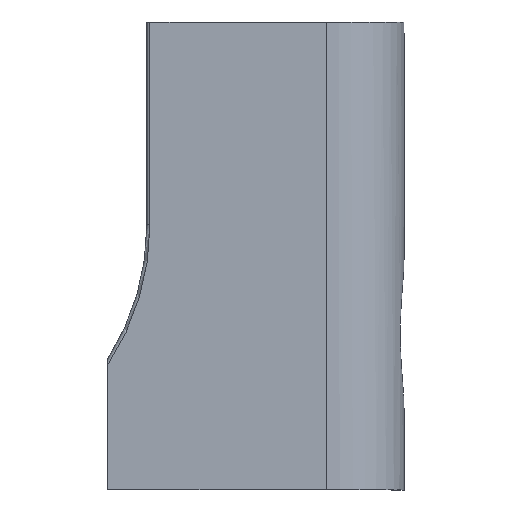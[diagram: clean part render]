
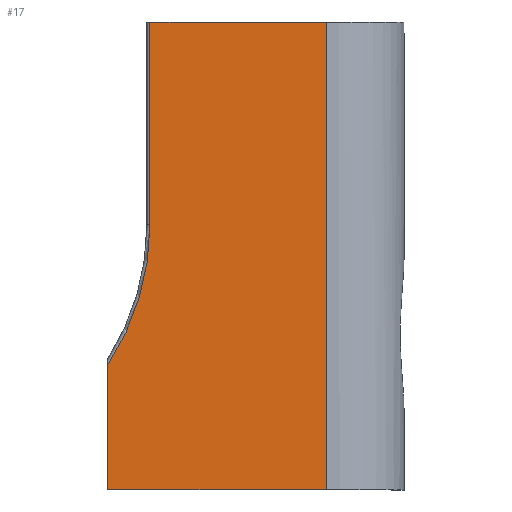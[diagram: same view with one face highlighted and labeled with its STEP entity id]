
A CAD part, top view. The second image highlights one B-rep face of the part: STEP entity #17.
In plain terms, the highlighted planar face has unit normal (0, 0, 1).
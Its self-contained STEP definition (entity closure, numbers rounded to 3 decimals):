
#17 = ADVANCED_FACE('',(#18),#32,.T.);
#18 = FACE_BOUND('',#19,.T.);
#19 = EDGE_LOOP('',(#20,#53,#81,#107,#135,#164));
#20 = ORIENTED_EDGE('',*,*,#21,.F.);
#21 = EDGE_CURVE('',#22,#24,#26,.T.);
#22 = VERTEX_POINT('',#23);
#23 = CARTESIAN_POINT('',(39.,-10.,11.75));
#24 = VERTEX_POINT('',#25);
#25 = CARTESIAN_POINT('',(25.,-10.,11.75));
#26 = SURFACE_CURVE('',#27,(#31,#42),.PCURVE_S1.);
#27 = LINE('',#28,#29);
#28 = CARTESIAN_POINT('',(-9.5,-10.,11.75));
#29 = VECTOR('',#30,1.);
#30 = DIRECTION('',(-1.,0.,0.));
#31 = PCURVE('',#32,#37);
#32 = PLANE('',#33);
#33 = AXIS2_PLACEMENT_3D('',#34,#35,#36);
#34 = CARTESIAN_POINT('',(-44.,-68.,11.75));
#35 = DIRECTION('',(0.,0.,1.));
#36 = DIRECTION('',(1.,0.,-0.));
#37 = DEFINITIONAL_REPRESENTATION('',(#38),#41);
#38 = B_SPLINE_CURVE_WITH_KNOTS('',1,(#39,#40),.UNSPECIFIED.,.F.,.F.,(2,
    2),(-48.5,-34.5),.PIECEWISE_BEZIER_KNOTS.);
#39 = CARTESIAN_POINT('',(83.,58.));
#40 = CARTESIAN_POINT('',(69.,58.));
#41 = ( GEOMETRIC_REPRESENTATION_CONTEXT(2) 
PARAMETRIC_REPRESENTATION_CONTEXT() REPRESENTATION_CONTEXT('2D SPACE',''
  ) );
#42 = PCURVE('',#43,#48);
#43 = PLANE('',#44);
#44 = AXIS2_PLACEMENT_3D('',#45,#46,#47);
#45 = CARTESIAN_POINT('',(25.,-10.,2.));
#46 = DIRECTION('',(0.,1.,0.));
#47 = DIRECTION('',(0.,0.,1.));
#48 = DEFINITIONAL_REPRESENTATION('',(#49),#52);
#49 = B_SPLINE_CURVE_WITH_KNOTS('',1,(#50,#51),.UNSPECIFIED.,.F.,.F.,(2,
    2),(-48.5,-34.5),.PIECEWISE_BEZIER_KNOTS.);
#50 = CARTESIAN_POINT('',(9.75,14.));
#51 = CARTESIAN_POINT('',(9.75,0.));
#52 = ( GEOMETRIC_REPRESENTATION_CONTEXT(2) 
PARAMETRIC_REPRESENTATION_CONTEXT() REPRESENTATION_CONTEXT('2D SPACE',''
  ) );
#53 = ORIENTED_EDGE('',*,*,#54,.F.);
#54 = EDGE_CURVE('',#55,#22,#57,.T.);
#55 = VERTEX_POINT('',#56);
#56 = CARTESIAN_POINT('',(39.,20.,11.75));
#57 = SURFACE_CURVE('',#58,(#62,#69),.PCURVE_S1.);
#58 = LINE('',#59,#60);
#59 = CARTESIAN_POINT('',(39.,46.,11.75));
#60 = VECTOR('',#61,1.);
#61 = DIRECTION('',(-0.,-1.,-0.));
#62 = PCURVE('',#32,#63);
#63 = DEFINITIONAL_REPRESENTATION('',(#64),#68);
#64 = LINE('',#65,#66);
#65 = CARTESIAN_POINT('',(83.,114.));
#66 = VECTOR('',#67,1.);
#67 = DIRECTION('',(0.,-1.));
#68 = ( GEOMETRIC_REPRESENTATION_CONTEXT(2) 
PARAMETRIC_REPRESENTATION_CONTEXT() REPRESENTATION_CONTEXT('2D SPACE',''
  ) );
#69 = PCURVE('',#70,#75);
#70 = CYLINDRICAL_SURFACE('',#71,5.);
#71 = AXIS2_PLACEMENT_3D('',#72,#73,#74);
#72 = CARTESIAN_POINT('',(39.,46.,6.75));
#73 = DIRECTION('',(-0.,-1.,-0.));
#74 = DIRECTION('',(1.,0.,-0.));
#75 = DEFINITIONAL_REPRESENTATION('',(#76),#80);
#76 = LINE('',#77,#78);
#77 = CARTESIAN_POINT('',(1.571,0.));
#78 = VECTOR('',#79,1.);
#79 = DIRECTION('',(0.,1.));
#80 = ( GEOMETRIC_REPRESENTATION_CONTEXT(2) 
PARAMETRIC_REPRESENTATION_CONTEXT() REPRESENTATION_CONTEXT('2D SPACE',''
  ) );
#81 = ORIENTED_EDGE('',*,*,#82,.T.);
#82 = EDGE_CURVE('',#55,#83,#85,.T.);
#83 = VERTEX_POINT('',#84);
#84 = CARTESIAN_POINT('',(27.7,20.,11.75));
#85 = SURFACE_CURVE('',#86,(#90,#96),.PCURVE_S1.);
#86 = LINE('',#87,#88);
#87 = CARTESIAN_POINT('',(-9.5,20.,11.75));
#88 = VECTOR('',#89,1.);
#89 = DIRECTION('',(-1.,0.,0.));
#90 = PCURVE('',#32,#91);
#91 = DEFINITIONAL_REPRESENTATION('',(#92),#95);
#92 = B_SPLINE_CURVE_WITH_KNOTS('',1,(#93,#94),.UNSPECIFIED.,.F.,.F.,(2,
    2),(-48.5,-34.5),.PIECEWISE_BEZIER_KNOTS.);
#93 = CARTESIAN_POINT('',(83.,88.));
#94 = CARTESIAN_POINT('',(69.,88.));
#95 = ( GEOMETRIC_REPRESENTATION_CONTEXT(2) 
PARAMETRIC_REPRESENTATION_CONTEXT() REPRESENTATION_CONTEXT('2D SPACE',''
  ) );
#96 = PCURVE('',#97,#102);
#97 = PLANE('',#98);
#98 = AXIS2_PLACEMENT_3D('',#99,#100,#101);
#99 = CARTESIAN_POINT('',(25.,20.,2.));
#100 = DIRECTION('',(0.,1.,0.));
#101 = DIRECTION('',(0.,0.,1.));
#102 = DEFINITIONAL_REPRESENTATION('',(#103),#106);
#103 = B_SPLINE_CURVE_WITH_KNOTS('',1,(#104,#105),.UNSPECIFIED.,.F.,.F.,
  (2,2),(-48.5,-34.5),.PIECEWISE_BEZIER_KNOTS.);
#104 = CARTESIAN_POINT('',(9.75,14.));
#105 = CARTESIAN_POINT('',(9.75,0.));
#106 = ( GEOMETRIC_REPRESENTATION_CONTEXT(2) 
PARAMETRIC_REPRESENTATION_CONTEXT() REPRESENTATION_CONTEXT('2D SPACE',''
  ) );
#107 = ORIENTED_EDGE('',*,*,#108,.F.);
#108 = EDGE_CURVE('',#109,#83,#111,.T.);
#109 = VERTEX_POINT('',#110);
#110 = CARTESIAN_POINT('',(27.7,7.,11.75));
#111 = SURFACE_CURVE('',#112,(#116,#123),.PCURVE_S1.);
#112 = LINE('',#113,#114);
#113 = CARTESIAN_POINT('',(27.7,7.,11.75));
#114 = VECTOR('',#115,1.);
#115 = DIRECTION('',(0.,1.,0.));
#116 = PCURVE('',#32,#117);
#117 = DEFINITIONAL_REPRESENTATION('',(#118),#122);
#118 = LINE('',#119,#120);
#119 = CARTESIAN_POINT('',(71.7,75.));
#120 = VECTOR('',#121,1.);
#121 = DIRECTION('',(0.,1.));
#122 = ( GEOMETRIC_REPRESENTATION_CONTEXT(2) 
PARAMETRIC_REPRESENTATION_CONTEXT() REPRESENTATION_CONTEXT('2D SPACE',''
  ) );
#123 = PCURVE('',#124,#129);
#124 = CYLINDRICAL_SURFACE('',#125,0.2);
#125 = AXIS2_PLACEMENT_3D('',#126,#127,#128);
#126 = CARTESIAN_POINT('',(27.7,7.,11.55));
#127 = DIRECTION('',(0.,1.,0.));
#128 = DIRECTION('',(0.,-0.,1.));
#129 = DEFINITIONAL_REPRESENTATION('',(#130),#134);
#130 = LINE('',#131,#132);
#131 = CARTESIAN_POINT('',(6.283,0.));
#132 = VECTOR('',#133,1.);
#133 = DIRECTION('',(-0.,1.));
#134 = ( GEOMETRIC_REPRESENTATION_CONTEXT(2) 
PARAMETRIC_REPRESENTATION_CONTEXT() REPRESENTATION_CONTEXT('2D SPACE',''
  ) );
#135 = ORIENTED_EDGE('',*,*,#136,.F.);
#136 = EDGE_CURVE('',#137,#109,#139,.T.);
#137 = VERTEX_POINT('',#138);
#138 = CARTESIAN_POINT('',(25.,-1.955,11.75));
#139 = SURFACE_CURVE('',#140,(#145,#152),.PCURVE_S1.);
#140 = CIRCLE('',#141,16.2);
#141 = AXIS2_PLACEMENT_3D('',#142,#143,#144);
#142 = CARTESIAN_POINT('',(11.5,7.,11.75));
#143 = DIRECTION('',(0.,0.,1.));
#144 = DIRECTION('',(0.,-1.,0.));
#145 = PCURVE('',#32,#146);
#146 = DEFINITIONAL_REPRESENTATION('',(#147),#151);
#147 = CIRCLE('',#148,16.2);
#148 = AXIS2_PLACEMENT_2D('',#149,#150);
#149 = CARTESIAN_POINT('',(55.5,75.));
#150 = DIRECTION('',(0.,-1.));
#151 = ( GEOMETRIC_REPRESENTATION_CONTEXT(2) 
PARAMETRIC_REPRESENTATION_CONTEXT() REPRESENTATION_CONTEXT('2D SPACE',''
  ) );
#152 = PCURVE('',#153,#158);
#153 = TOROIDAL_SURFACE('',#154,16.2,0.2);
#154 = AXIS2_PLACEMENT_3D('',#155,#156,#157);
#155 = CARTESIAN_POINT('',(11.5,7.,11.55));
#156 = DIRECTION('',(0.,0.,1.));
#157 = DIRECTION('',(0.,-1.,0.));
#158 = DEFINITIONAL_REPRESENTATION('',(#159),#163);
#159 = LINE('',#160,#161);
#160 = CARTESIAN_POINT('',(0.,1.571));
#161 = VECTOR('',#162,1.);
#162 = DIRECTION('',(1.,0.));
#163 = ( GEOMETRIC_REPRESENTATION_CONTEXT(2) 
PARAMETRIC_REPRESENTATION_CONTEXT() REPRESENTATION_CONTEXT('2D SPACE',''
  ) );
#164 = ORIENTED_EDGE('',*,*,#165,.F.);
#165 = EDGE_CURVE('',#24,#137,#166,.T.);
#166 = SURFACE_CURVE('',#167,(#171,#177),.PCURVE_S1.);
#167 = LINE('',#168,#169);
#168 = CARTESIAN_POINT('',(25.,-39.,11.75));
#169 = VECTOR('',#170,1.);
#170 = DIRECTION('',(0.,1.,0.));
#171 = PCURVE('',#32,#172);
#172 = DEFINITIONAL_REPRESENTATION('',(#173),#176);
#173 = B_SPLINE_CURVE_WITH_KNOTS('',1,(#174,#175),.UNSPECIFIED.,.F.,.F.,
  (2,2),(29.,59.),.PIECEWISE_BEZIER_KNOTS.);
#174 = CARTESIAN_POINT('',(69.,58.));
#175 = CARTESIAN_POINT('',(69.,88.));
#176 = ( GEOMETRIC_REPRESENTATION_CONTEXT(2) 
PARAMETRIC_REPRESENTATION_CONTEXT() REPRESENTATION_CONTEXT('2D SPACE',''
  ) );
#177 = PCURVE('',#178,#183);
#178 = PLANE('',#179);
#179 = AXIS2_PLACEMENT_3D('',#180,#181,#182);
#180 = CARTESIAN_POINT('',(25.,-10.,2.));
#181 = DIRECTION('',(1.,0.,0.));
#182 = DIRECTION('',(0.,0.,1.));
#183 = DEFINITIONAL_REPRESENTATION('',(#184),#187);
#184 = B_SPLINE_CURVE_WITH_KNOTS('',1,(#185,#186),.UNSPECIFIED.,.F.,.F.,
  (2,2),(29.,59.),.PIECEWISE_BEZIER_KNOTS.);
#185 = CARTESIAN_POINT('',(9.75,0.));
#186 = CARTESIAN_POINT('',(9.75,-30.));
#187 = ( GEOMETRIC_REPRESENTATION_CONTEXT(2) 
PARAMETRIC_REPRESENTATION_CONTEXT() REPRESENTATION_CONTEXT('2D SPACE',''
  ) );
